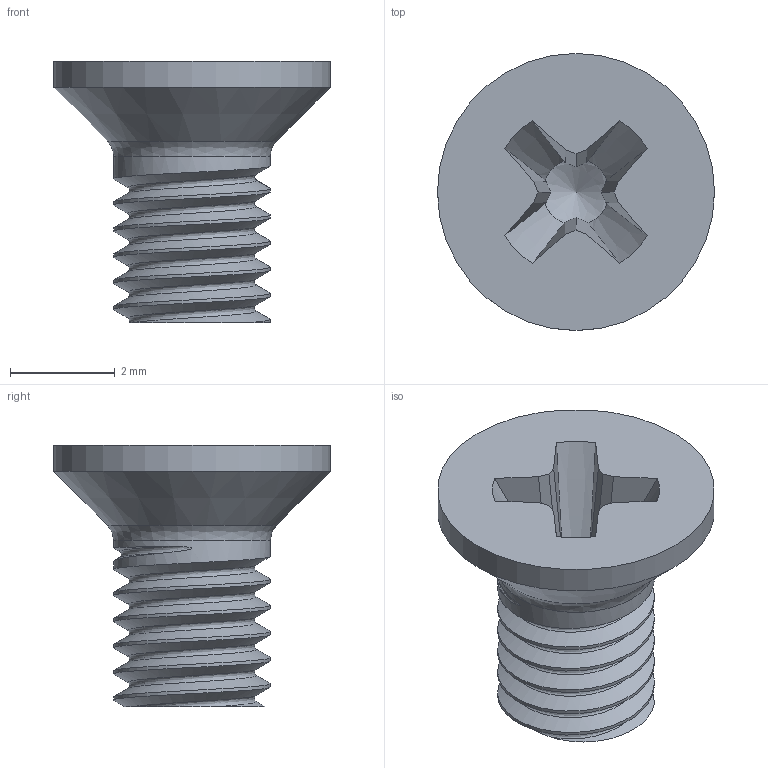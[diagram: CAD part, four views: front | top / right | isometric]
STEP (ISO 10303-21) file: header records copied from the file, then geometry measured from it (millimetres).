
FILE_DESCRIPTION(('FreeCAD Model'),'2;1');
FILE_NAME('C:/D/Lycee/Cours/BTS_SN/Video_Youtube/65_PCB_Capture_trame_DMX/Modeles_3D_&_Empreintes/Vis_tete_plate_M3x5.step','2021-05-09T14:37:24',( 'kicad StepUp'),('ksu MCAD'),'Open CASCADE STEP processor 7.3', 'FreeCAD','Unknown');
FILE_SCHEMA(('AUTOMOTIVE_DESIGN { 1 0 10303 214 1 1 1 1 }'));
Length unit declared in the file: millimetre
Products named in the file (1): M3x5-Screw
Bounding box: 5.3 x 5.3 x 5 mm (x, y, z)
Volume: 41.4 mm3; surface area: 115.1 mm2
Topology: 1 solids, 1 shells, 54 faces, 127 edges, 75 vertices
Faces by surface type: bspline 27, plane 18, cone 6, cylinder 2, revolution 1
Full cylindrical faces by diameter (mm): 3 x1, 5.3 x1
Entity records: 2898 total; most frequent: CARTESIAN_POINT 1832, ORIENTED_EDGE 252, DIRECTION 164, EDGE_CURVE 126, VERTEX_POINT 75, AXIS2_PLACEMENT_3D 65, FACE_BOUND 55, EDGE_LOOP 55
